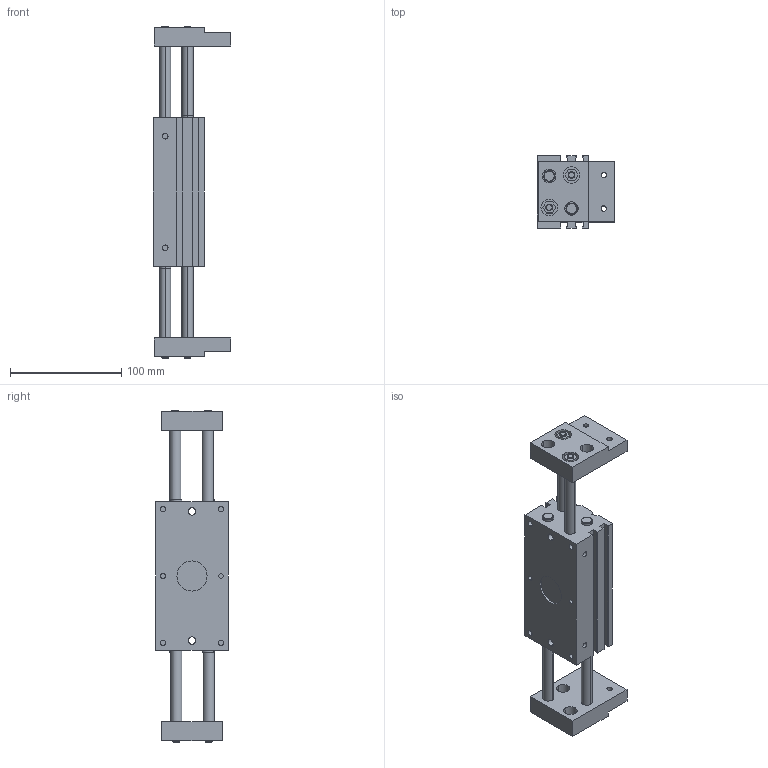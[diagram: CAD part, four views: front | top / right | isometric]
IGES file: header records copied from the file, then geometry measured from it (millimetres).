
Global section: file name: No Iges File Name specified; native system: AutoDesk Inventor R11.0; preprocessor: AutoDesk Inventor Iges Exporter R11.0; author: No Author specified; organization: No Organization specified; date: 20070224.105516; units: millimetre
Bounding box: 70 x 65 x 298 mm (x, y, z)
Volume: 496469.4 mm3; surface area: 114774.4 mm2
Topology: 3 solids, 3 shells, 203 faces, 494 edges, 324 vertices
Faces by surface type: plane 101, bspline 56, cylinder 16, cone 16, revolution 14
